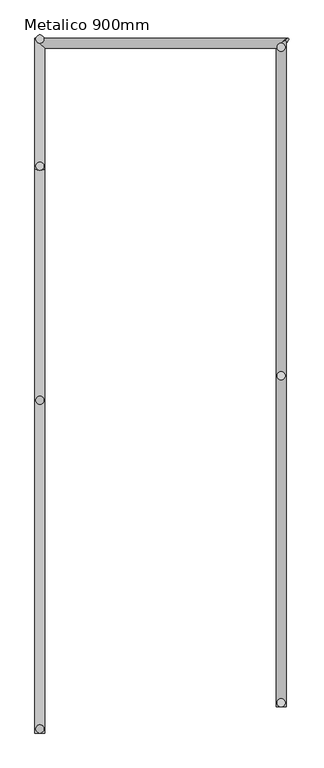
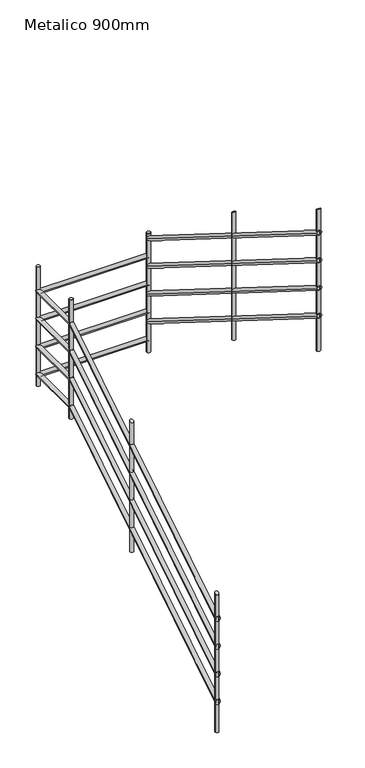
"""IFC4 building model written with IfcOpenShell, lengths in millimetres: railing geometry, Metalico 900mm."""

from ifc_helpers import new_model, si_unit, point, frame, frame_2d, origin, place, context, project, spatial, circle_curve, ellipse_curve, trimmed, segment, composite_curve, outline, extrude, source, transform, mapped, element, save
from ifc_brep_helpers import plane_surface, cylinder_surface, advanced_brep


def metalico_900mm_8390f29c(model_context):
    return source(origin(), model_context, "Body", "SolidModel", [
        advanced_brep(
        [(9989.9958537, 8929.9988127, 829.1198035), (10019.9958537, 8929.9988127, 829.1198035), (9989.9958537, 10659.8455144, 1912.3333333), (10019.9958537, 10659.8455144, 1912.3333333), (10765.669886, 11059.9988127, 1912.3333333), (10740.2435505, 11029.9988127, 1912.3333333), (10019.9958537, 11029.9988127, 1912.3333333), (9989.9958537, 11059.9988127, 1912.3333333)],
        [
            (0, 1, ellipse_curve(frame((10004.9958537, 8929.9988127, 829.1198035), z_axis=(0.0, -1.0, 0.0), x_axis=(0.0, 0.0, -1.0)), 17.6981854, 15.0)),
            (1, 0, ellipse_curve(frame((10004.9958537, 8929.9988127, 829.1198035), z_axis=(0.0, -1.0, 0.0), x_axis=(0.0, 0.0, -1.0)), 17.6981854, 15.0)),
            (0, 2),
            (2, 3, ellipse_curve(frame((10004.9958537, 10659.8455144, 1912.3333333), z_axis=(0.0, -0.9611307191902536, -0.27609371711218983), x_axis=(0.0, 0.2760937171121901, -0.9611307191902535)), 15.606618, 15.0)),
            (3, 1),
            (3, 2, ellipse_curve(frame((10004.9958537, 10659.8455144, 1912.3333333), z_axis=(0.0, -0.9611307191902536, -0.27609371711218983), x_axis=(0.0, 0.2760937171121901, -0.9611307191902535)), 15.606618, 15.0)),
            (4, 5, ellipse_curve(frame((10752.9567183, 11044.9988127, 1912.3333333), z_axis=(0.7071067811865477, -0.5993044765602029, 0.3752787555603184), x_axis=(-0.7071067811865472, -0.5993044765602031, 0.3752787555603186)), 21.2132034, 15.0)),
            (5, 4, ellipse_curve(frame((10752.9567183, 11044.9988127, 1912.3333333), z_axis=(0.7071067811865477, -0.5993044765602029, 0.3752787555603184), x_axis=(-0.7071067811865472, -0.5993044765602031, 0.3752787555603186)), 21.2132034, 15.0)),
            (6, 7, ellipse_curve(frame((10004.9958537, 11044.9988127, 1912.3333333), z_axis=(0.7071067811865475, 0.7071067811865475, 0.0), x_axis=(-0.7071067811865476, 0.7071067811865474, 0.0)), 21.2132034, 15.0)),
            (7, 4),
            (5, 6),
            (7, 6, ellipse_curve(frame((10004.9958537, 11044.9988127, 1912.3333333), z_axis=(0.7071067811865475, 0.7071067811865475, 0.0), x_axis=(-0.7071067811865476, 0.7071067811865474, 0.0)), 21.2132034, 15.0)),
            (2, 7),
            (6, 3),
        ],
        [
            plane_surface(frame((10004.9958537, 8929.9988127, 846.8179888), z_axis=(0.0, -1.0, 0.0), x_axis=(0.0, 0.0, 1.0))),
            cylinder_surface(frame((10004.9958537, 8937.9596773, 834.104821), z_axis=(0.0, -0.8475445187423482, -0.5307243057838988), x_axis=(1.0, 0.0, 0.0)), 15.0),
            plane_surface(frame((10744.9958537, 11044.9988127, 1927.3333333), z_axis=(0.7071067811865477, -0.5993044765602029, 0.3752787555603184), x_axis=(0.7071067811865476, 0.599304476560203, -0.3752787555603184))),
            cylinder_surface(frame((10004.9958537, 11044.9988127, 1912.3333333), z_axis=(-1.0, 0.0, 0.0), x_axis=(0.0, -1.0, 0.0)), 15.0),
            cylinder_surface(frame((10004.9958537, 10655.5366253, 1912.3333333), z_axis=(0.0, -1.0, 0.0), x_axis=(1.0, 0.0, 0.0)), 15.0),
        ],
        [
            (0, [[1, 2]]),
            (1, [[-1, 3, 4, 5]]),
            (1, [[-2, -5, 6, -3]]),
            (2, [[7, 8]]),
            (3, [[9, 10, -8, 11]]),
            (3, [[12, -11, -7, -10]]),
            (4, [[-4, 13, -9, 14]]),
            (4, [[-6, -14, -12, -13]]),
        ],
    ),
        advanced_brep(
        [(10759.9958537, 11049.7511159, 2035.0283486), (10729.9958537, 11024.3247804, 2050.9500778), (10759.9958537, 9009.9988127, 3312.3018146), (10729.9958537, 9009.9988127, 3312.3018146)],
        [
            (0, 1, ellipse_curve(frame((10744.9958537, 11037.0379481, 2042.9892132), z_axis=(-0.7071067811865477, 0.5993044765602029, -0.3752787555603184), x_axis=(0.7071067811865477, 0.5993044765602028, -0.37527875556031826)), 21.2132034, 15.0)),
            (1, 0, ellipse_curve(frame((10744.9958537, 11037.0379481, 2042.9892132), z_axis=(-0.7071067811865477, 0.5993044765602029, -0.3752787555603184), x_axis=(0.7071067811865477, 0.5993044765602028, -0.37527875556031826)), 21.2132034, 15.0)),
            (2, 3, ellipse_curve(frame((10744.9958537, 9009.9988127, 3312.3018146), z_axis=(0.0, -1.0, 0.0), x_axis=(0.0, 0.0, -1.0)), 17.6981854, 15.0)),
            (3, 2, ellipse_curve(frame((10744.9958537, 9009.9988127, 3312.3018146), z_axis=(0.0, -1.0, 0.0), x_axis=(0.0, 0.0, -1.0)), 17.6981854, 15.0)),
            (0, 2),
            (3, 1),
        ],
        [
            plane_surface(frame((10744.9958537, 11044.9988127, 2055.702381), z_axis=(-0.7071067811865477, 0.5993044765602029, -0.3752787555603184), x_axis=(0.7071067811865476, 0.599304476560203, -0.3752787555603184))),
            plane_surface(frame((10744.9958537, 9009.9988127, 3330.0), z_axis=(0.0, -1.0, 0.0), x_axis=(0.0, 0.0, -1.0))),
            cylinder_surface(frame((10744.9958537, 11037.0379481, 2042.9892132), z_axis=(0.0, 0.8475445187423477, -0.5307243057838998), x_axis=(-1.0, 0.0, 0.0)), 15.0),
        ],
        [
            (0, [[1, 2]]),
            (1, [[3, 4]]),
            (2, [[-1, 5, -4, 6]]),
            (2, [[-2, -6, -3, -5]]),
        ],
    ),
        advanced_brep(
        [(9989.9958537, 8929.9988127, 629.1198035), (10019.9958537, 8929.9988127, 629.1198035), (9989.9958537, 10659.8455144, 1712.3333333), (10019.9958537, 10659.8455144, 1712.3333333), (10765.669886, 11059.9988127, 1712.3333333), (10740.2435505, 11029.9988127, 1712.3333333), (10019.9958537, 11029.9988127, 1712.3333333), (9989.9958537, 11059.9988127, 1712.3333333)],
        [
            (0, 1, ellipse_curve(frame((10004.9958537, 8929.9988127, 629.1198035), z_axis=(0.0, -1.0, 0.0), x_axis=(0.0, 0.0, -1.0)), 17.6981854, 15.0)),
            (1, 0, ellipse_curve(frame((10004.9958537, 8929.9988127, 629.1198035), z_axis=(0.0, -1.0, 0.0), x_axis=(0.0, 0.0, -1.0)), 17.6981854, 15.0)),
            (0, 2),
            (2, 3, ellipse_curve(frame((10004.9958537, 10659.8455144, 1712.3333333), z_axis=(0.0, -0.9611307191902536, -0.27609371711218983), x_axis=(0.0, 0.2760937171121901, -0.9611307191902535)), 15.606618, 15.0)),
            (3, 1),
            (3, 2, ellipse_curve(frame((10004.9958537, 10659.8455144, 1712.3333333), z_axis=(0.0, -0.9611307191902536, -0.27609371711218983), x_axis=(0.0, 0.2760937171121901, -0.9611307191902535)), 15.606618, 15.0)),
            (4, 5, ellipse_curve(frame((10752.9567183, 11044.9988127, 1712.3333333), z_axis=(0.7071067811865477, -0.5993044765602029, 0.3752787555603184), x_axis=(-0.7071067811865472, -0.5993044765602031, 0.3752787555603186)), 21.2132034, 15.0)),
            (5, 4, ellipse_curve(frame((10752.9567183, 11044.9988127, 1712.3333333), z_axis=(0.7071067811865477, -0.5993044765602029, 0.3752787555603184), x_axis=(-0.7071067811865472, -0.5993044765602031, 0.3752787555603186)), 21.2132034, 15.0)),
            (6, 7, ellipse_curve(frame((10004.9958537, 11044.9988127, 1712.3333333), z_axis=(0.7071067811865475, 0.7071067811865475, 0.0), x_axis=(-0.7071067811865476, 0.7071067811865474, 0.0)), 21.2132034, 15.0)),
            (7, 4),
            (5, 6),
            (7, 6, ellipse_curve(frame((10004.9958537, 11044.9988127, 1712.3333333), z_axis=(0.7071067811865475, 0.7071067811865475, 0.0), x_axis=(-0.7071067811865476, 0.7071067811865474, 0.0)), 21.2132034, 15.0)),
            (2, 7),
            (6, 3),
        ],
        [
            plane_surface(frame((10004.9958537, 8929.9988127, 646.8179888), z_axis=(0.0, -1.0, 0.0), x_axis=(0.0, 0.0, 1.0))),
            cylinder_surface(frame((10004.9958537, 8937.9596773, 634.104821), z_axis=(0.0, -0.8475445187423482, -0.5307243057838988), x_axis=(1.0, 0.0, 0.0)), 15.0),
            plane_surface(frame((10744.9958537, 11044.9988127, 1727.3333333), z_axis=(0.7071067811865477, -0.5993044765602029, 0.3752787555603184), x_axis=(0.7071067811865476, 0.599304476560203, -0.3752787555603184))),
            cylinder_surface(frame((10004.9958537, 11044.9988127, 1712.3333333), z_axis=(-1.0, 0.0, 0.0), x_axis=(0.0, -1.0, 0.0)), 15.0),
            cylinder_surface(frame((10004.9958537, 10655.5366253, 1712.3333333), z_axis=(0.0, -1.0, 0.0), x_axis=(1.0, 0.0, 0.0)), 15.0),
        ],
        [
            (0, [[1, 2]]),
            (1, [[-1, 3, 4, 5]]),
            (1, [[-2, -5, 6, -3]]),
            (2, [[7, 8]]),
            (3, [[9, 10, -8, 11]]),
            (3, [[12, -11, -7, -10]]),
            (4, [[-4, 13, -9, 14]]),
            (4, [[-6, -14, -12, -13]]),
        ],
    ),
        advanced_brep(
        [(10759.9958537, 11049.7511159, 1835.0283486), (10729.9958537, 11024.3247804, 1850.9500778), (10759.9958537, 9009.9988127, 3112.3018146), (10729.9958537, 9009.9988127, 3112.3018146)],
        [
            (0, 1, ellipse_curve(frame((10744.9958537, 11037.0379481, 1842.9892132), z_axis=(-0.7071067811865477, 0.5993044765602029, -0.3752787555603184), x_axis=(0.7071067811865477, 0.5993044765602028, -0.37527875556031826)), 21.2132034, 15.0)),
            (1, 0, ellipse_curve(frame((10744.9958537, 11037.0379481, 1842.9892132), z_axis=(-0.7071067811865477, 0.5993044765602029, -0.3752787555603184), x_axis=(0.7071067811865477, 0.5993044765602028, -0.37527875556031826)), 21.2132034, 15.0)),
            (2, 3, ellipse_curve(frame((10744.9958537, 9009.9988127, 3112.3018146), z_axis=(0.0, -1.0, 0.0), x_axis=(0.0, 0.0, -1.0)), 17.6981854, 15.0)),
            (3, 2, ellipse_curve(frame((10744.9958537, 9009.9988127, 3112.3018146), z_axis=(0.0, -1.0, 0.0), x_axis=(0.0, 0.0, -1.0)), 17.6981854, 15.0)),
            (0, 2),
            (3, 1),
        ],
        [
            plane_surface(frame((10744.9958537, 11044.9988127, 1855.702381), z_axis=(-0.7071067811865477, 0.5993044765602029, -0.3752787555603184), x_axis=(0.7071067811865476, 0.599304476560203, -0.3752787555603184))),
            plane_surface(frame((10744.9958537, 9009.9988127, 3130.0), z_axis=(0.0, -1.0, 0.0), x_axis=(0.0, 0.0, -1.0))),
            cylinder_surface(frame((10744.9958537, 11037.0379481, 1842.9892132), z_axis=(0.0, 0.8475445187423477, -0.5307243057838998), x_axis=(-1.0, 0.0, 0.0)), 15.0),
        ],
        [
            (0, [[1, 2]]),
            (1, [[3, 4]]),
            (2, [[-1, 5, -4, 6]]),
            (2, [[-2, -6, -3, -5]]),
        ],
    ),
        advanced_brep(
        [(9989.9958537, 8929.9988127, 429.1198035), (10019.9958537, 8929.9988127, 429.1198035), (9989.9958537, 10659.8455144, 1512.3333333), (10019.9958537, 10659.8455144, 1512.3333333), (10765.669886, 11059.9988127, 1512.3333333), (10740.2435505, 11029.9988127, 1512.3333333), (10019.9958537, 11029.9988127, 1512.3333333), (9989.9958537, 11059.9988127, 1512.3333333)],
        [
            (0, 1, ellipse_curve(frame((10004.9958537, 8929.9988127, 429.1198035), z_axis=(0.0, -1.0, 0.0), x_axis=(0.0, 0.0, -1.0)), 17.6981854, 15.0)),
            (1, 0, ellipse_curve(frame((10004.9958537, 8929.9988127, 429.1198035), z_axis=(0.0, -1.0, 0.0), x_axis=(0.0, 0.0, -1.0)), 17.6981854, 15.0)),
            (0, 2),
            (2, 3, ellipse_curve(frame((10004.9958537, 10659.8455144, 1512.3333333), z_axis=(0.0, -0.9611307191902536, -0.27609371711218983), x_axis=(0.0, 0.2760937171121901, -0.9611307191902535)), 15.606618, 15.0)),
            (3, 1),
            (3, 2, ellipse_curve(frame((10004.9958537, 10659.8455144, 1512.3333333), z_axis=(0.0, -0.9611307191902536, -0.27609371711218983), x_axis=(0.0, 0.2760937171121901, -0.9611307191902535)), 15.606618, 15.0)),
            (4, 5, ellipse_curve(frame((10752.9567183, 11044.9988127, 1512.3333333), z_axis=(0.7071067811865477, -0.5993044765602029, 0.3752787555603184), x_axis=(-0.7071067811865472, -0.5993044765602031, 0.3752787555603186)), 21.2132034, 15.0)),
            (5, 4, ellipse_curve(frame((10752.9567183, 11044.9988127, 1512.3333333), z_axis=(0.7071067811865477, -0.5993044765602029, 0.3752787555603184), x_axis=(-0.7071067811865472, -0.5993044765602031, 0.3752787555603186)), 21.2132034, 15.0)),
            (6, 7, ellipse_curve(frame((10004.9958537, 11044.9988127, 1512.3333333), z_axis=(0.7071067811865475, 0.7071067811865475, 0.0), x_axis=(-0.7071067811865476, 0.7071067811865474, 0.0)), 21.2132034, 15.0)),
            (7, 4),
            (5, 6),
            (7, 6, ellipse_curve(frame((10004.9958537, 11044.9988127, 1512.3333333), z_axis=(0.7071067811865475, 0.7071067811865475, 0.0), x_axis=(-0.7071067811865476, 0.7071067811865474, 0.0)), 21.2132034, 15.0)),
            (2, 7),
            (6, 3),
        ],
        [
            plane_surface(frame((10004.9958537, 8929.9988127, 446.8179888), z_axis=(0.0, -1.0, 0.0), x_axis=(0.0, 0.0, 1.0))),
            cylinder_surface(frame((10004.9958537, 8937.9596773, 434.104821), z_axis=(0.0, -0.8475445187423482, -0.5307243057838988), x_axis=(1.0, 0.0, 0.0)), 15.0),
            plane_surface(frame((10744.9958537, 11044.9988127, 1527.3333333), z_axis=(0.7071067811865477, -0.5993044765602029, 0.3752787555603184), x_axis=(0.7071067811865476, 0.599304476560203, -0.3752787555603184))),
            cylinder_surface(frame((10004.9958537, 11044.9988127, 1512.3333333), z_axis=(-1.0, 0.0, 0.0), x_axis=(0.0, -1.0, 0.0)), 15.0),
            cylinder_surface(frame((10004.9958537, 10655.5366253, 1512.3333333), z_axis=(0.0, -1.0, 0.0), x_axis=(1.0, 0.0, 0.0)), 15.0),
        ],
        [
            (0, [[1, 2]]),
            (1, [[-1, 3, 4, 5]]),
            (1, [[-2, -5, 6, -3]]),
            (2, [[7, 8]]),
            (3, [[9, 10, -8, 11]]),
            (3, [[12, -11, -7, -10]]),
            (4, [[-4, 13, -9, 14]]),
            (4, [[-6, -14, -12, -13]]),
        ],
    ),
        advanced_brep(
        [(10759.9958537, 11049.7511159, 1635.0283486), (10729.9958537, 11024.3247804, 1650.9500778), (10759.9958537, 9009.9988127, 2912.3018146), (10729.9958537, 9009.9988127, 2912.3018146)],
        [
            (0, 1, ellipse_curve(frame((10744.9958537, 11037.0379481, 1642.9892132), z_axis=(-0.7071067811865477, 0.5993044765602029, -0.3752787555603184), x_axis=(0.7071067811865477, 0.5993044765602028, -0.37527875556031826)), 21.2132034, 15.0)),
            (1, 0, ellipse_curve(frame((10744.9958537, 11037.0379481, 1642.9892132), z_axis=(-0.7071067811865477, 0.5993044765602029, -0.3752787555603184), x_axis=(0.7071067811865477, 0.5993044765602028, -0.37527875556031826)), 21.2132034, 15.0)),
            (2, 3, ellipse_curve(frame((10744.9958537, 9009.9988127, 2912.3018146), z_axis=(0.0, -1.0, 0.0), x_axis=(0.0, 0.0, -1.0)), 17.6981854, 15.0)),
            (3, 2, ellipse_curve(frame((10744.9958537, 9009.9988127, 2912.3018146), z_axis=(0.0, -1.0, 0.0), x_axis=(0.0, 0.0, -1.0)), 17.6981854, 15.0)),
            (0, 2),
            (3, 1),
        ],
        [
            plane_surface(frame((10744.9958537, 11044.9988127, 1655.702381), z_axis=(-0.7071067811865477, 0.5993044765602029, -0.3752787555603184), x_axis=(0.7071067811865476, 0.599304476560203, -0.3752787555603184))),
            plane_surface(frame((10744.9958537, 9009.9988127, 2930.0), z_axis=(0.0, -1.0, 0.0), x_axis=(0.0, 0.0, -1.0))),
            cylinder_surface(frame((10744.9958537, 11037.0379481, 1642.9892132), z_axis=(0.0, 0.8475445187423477, -0.5307243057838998), x_axis=(-1.0, 0.0, 0.0)), 15.0),
        ],
        [
            (0, [[1, 2]]),
            (1, [[3, 4]]),
            (2, [[-1, 5, -4, 6]]),
            (2, [[-2, -6, -3, -5]]),
        ],
    ),
        advanced_brep(
        [(9989.9958537, 8929.9988127, 229.1198035), (10019.9958537, 8929.9988127, 229.1198035), (9989.9958537, 10659.8455144, 1312.3333333), (10019.9958537, 10659.8455144, 1312.3333333), (10765.669886, 11059.9988127, 1312.3333333), (10740.2435505, 11029.9988127, 1312.3333333), (10019.9958537, 11029.9988127, 1312.3333333), (9989.9958537, 11059.9988127, 1312.3333333)],
        [
            (0, 1, ellipse_curve(frame((10004.9958537, 8929.9988127, 229.1198035), z_axis=(0.0, -1.0, 0.0), x_axis=(0.0, 0.0, -1.0)), 17.6981854, 15.0)),
            (1, 0, ellipse_curve(frame((10004.9958537, 8929.9988127, 229.1198035), z_axis=(0.0, -1.0, 0.0), x_axis=(0.0, 0.0, -1.0)), 17.6981854, 15.0)),
            (0, 2),
            (2, 3, ellipse_curve(frame((10004.9958537, 10659.8455144, 1312.3333333), z_axis=(0.0, -0.9611307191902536, -0.27609371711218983), x_axis=(0.0, 0.2760937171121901, -0.9611307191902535)), 15.606618, 15.0)),
            (3, 1),
            (3, 2, ellipse_curve(frame((10004.9958537, 10659.8455144, 1312.3333333), z_axis=(0.0, -0.9611307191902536, -0.27609371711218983), x_axis=(0.0, 0.2760937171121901, -0.9611307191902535)), 15.606618, 15.0)),
            (4, 5, ellipse_curve(frame((10752.9567183, 11044.9988127, 1312.3333333), z_axis=(0.7071067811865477, -0.5993044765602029, 0.3752787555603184), x_axis=(-0.7071067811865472, -0.5993044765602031, 0.3752787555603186)), 21.2132034, 15.0)),
            (5, 4, ellipse_curve(frame((10752.9567183, 11044.9988127, 1312.3333333), z_axis=(0.7071067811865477, -0.5993044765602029, 0.3752787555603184), x_axis=(-0.7071067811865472, -0.5993044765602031, 0.3752787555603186)), 21.2132034, 15.0)),
            (6, 7, ellipse_curve(frame((10004.9958537, 11044.9988127, 1312.3333333), z_axis=(0.7071067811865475, 0.7071067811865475, 0.0), x_axis=(-0.7071067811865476, 0.7071067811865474, 0.0)), 21.2132034, 15.0)),
            (7, 4),
            (5, 6),
            (7, 6, ellipse_curve(frame((10004.9958537, 11044.9988127, 1312.3333333), z_axis=(0.7071067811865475, 0.7071067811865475, 0.0), x_axis=(-0.7071067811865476, 0.7071067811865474, 0.0)), 21.2132034, 15.0)),
            (2, 7),
            (6, 3),
        ],
        [
            plane_surface(frame((10004.9958537, 8929.9988127, 246.8179888), z_axis=(0.0, -1.0, 0.0), x_axis=(0.0, 0.0, 1.0))),
            cylinder_surface(frame((10004.9958537, 8937.9596773, 234.104821), z_axis=(0.0, -0.8475445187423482, -0.5307243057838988), x_axis=(1.0, 0.0, 0.0)), 15.0),
            plane_surface(frame((10744.9958537, 11044.9988127, 1327.3333333), z_axis=(0.7071067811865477, -0.5993044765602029, 0.3752787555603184), x_axis=(0.7071067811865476, 0.599304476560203, -0.3752787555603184))),
            cylinder_surface(frame((10004.9958537, 11044.9988127, 1312.3333333), z_axis=(-1.0, 0.0, 0.0), x_axis=(0.0, -1.0, 0.0)), 15.0),
            cylinder_surface(frame((10004.9958537, 10655.5366253, 1312.3333333), z_axis=(0.0, -1.0, 0.0), x_axis=(1.0, 0.0, 0.0)), 15.0),
        ],
        [
            (0, [[1, 2]]),
            (1, [[-1, 3, 4, 5]]),
            (1, [[-2, -5, 6, -3]]),
            (2, [[7, 8]]),
            (3, [[9, 10, -8, 11]]),
            (3, [[12, -11, -7, -10]]),
            (4, [[-4, 13, -9, 14]]),
            (4, [[-6, -14, -12, -13]]),
        ],
    ),
        advanced_brep(
        [(10759.9958537, 11049.7511159, 1435.0283486), (10729.9958537, 11024.3247804, 1450.9500778), (10759.9958537, 9009.9988127, 2712.3018146), (10729.9958537, 9009.9988127, 2712.3018146)],
        [
            (0, 1, ellipse_curve(frame((10744.9958537, 11037.0379481, 1442.9892132), z_axis=(-0.7071067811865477, 0.5993044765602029, -0.3752787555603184), x_axis=(0.7071067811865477, 0.5993044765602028, -0.37527875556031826)), 21.2132034, 15.0)),
            (1, 0, ellipse_curve(frame((10744.9958537, 11037.0379481, 1442.9892132), z_axis=(-0.7071067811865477, 0.5993044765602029, -0.3752787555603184), x_axis=(0.7071067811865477, 0.5993044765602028, -0.37527875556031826)), 21.2132034, 15.0)),
            (2, 3, ellipse_curve(frame((10744.9958537, 9009.9988127, 2712.3018146), z_axis=(0.0, -1.0, 0.0), x_axis=(0.0, 0.0, -1.0)), 17.6981854, 15.0)),
            (3, 2, ellipse_curve(frame((10744.9958537, 9009.9988127, 2712.3018146), z_axis=(0.0, -1.0, 0.0), x_axis=(0.0, 0.0, -1.0)), 17.6981854, 15.0)),
            (0, 2),
            (3, 1),
        ],
        [
            plane_surface(frame((10744.9958537, 11044.9988127, 1455.702381), z_axis=(-0.7071067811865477, 0.5993044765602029, -0.3752787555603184), x_axis=(0.7071067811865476, 0.599304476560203, -0.3752787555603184))),
            plane_surface(frame((10744.9958537, 9009.9988127, 2730.0), z_axis=(0.0, -1.0, 0.0), x_axis=(0.0, 0.0, -1.0))),
            cylinder_surface(frame((10744.9958537, 11037.0379481, 1442.9892132), z_axis=(0.0, 0.8475445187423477, -0.5307243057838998), x_axis=(-1.0, 0.0, 0.0)), 15.0),
        ],
        [
            (0, [[1, 2]]),
            (1, [[3, 4]]),
            (2, [[-1, 5, -4, 6]]),
            (2, [[-2, -6, -3, -5]]),
        ],
    ),
        advanced_brep(
        [(10732.4958537, 10024.9988127, 2847.2215057), (10732.4958537, 10024.9988127, 1928.6666667), (10757.4958537, 10024.9988127, 1928.6666667), (10757.4958537, 10024.9988127, 2847.2215057)],
        [
            (0, 1),
            (1, 2, circle_curve(frame((10744.9958537, 10024.9988127, 1928.6666667), z_axis=(0.0, 0.0, 1.0), x_axis=(1.0, 0.0, 0.0)), 12.5)),
            (2, 3),
            (3, 0, ellipse_curve(frame((10744.9958537, 10024.9988127, 2847.2215057), z_axis=(0.0, -0.5307243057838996, -0.8475445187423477), x_axis=(0.0, -0.8475445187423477, 0.5307243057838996)), 14.7484878, 12.5)),
            (0, 3, ellipse_curve(frame((10744.9958537, 10024.9988127, 2847.2215057), z_axis=(0.0, -0.5307243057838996, -0.8475445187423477), x_axis=(0.0, -0.8475445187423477, 0.5307243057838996)), 14.7484878, 12.5)),
            (2, 1, circle_curve(frame((10744.9958537, 10024.9988127, 1928.6666667), z_axis=(0.0, 0.0, 1.0), x_axis=(1.0, 0.0, 0.0)), 12.5)),
        ],
        [
            cylinder_surface(frame((10744.9958537, 10024.9988127, 1828.6666667), z_axis=(0.0, 0.0, 1.0), x_axis=(1.0, 0.0, 0.0)), 12.5),
            plane_surface(frame((10769.9958537, 9999.9988127, 2862.8762676), z_axis=(0.0, 0.5307243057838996, 0.8475445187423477), x_axis=(-1.0, 0.0, 0.0))),
            plane_surface(frame((10769.9958537, 10049.9988127, 1928.6666667), z_axis=(0.0, 0.0, -1.0), x_axis=(-1.0, 0.0, 0.0))),
        ],
        [
            (0, [[1, 2, 3, 4]]),
            (0, [[-1, 5, -3, 6]]),
            (1, [[-4, -5]]),
            (2, [[-2, -6]]),
        ],
    ),
        advanced_brep(
        [(10732.4958537, 10024.9988127, 2847.2215057), (10732.4958537, 10024.9988127, 1928.6666667), (10757.4958537, 10024.9988127, 1928.6666667), (10757.4958537, 10024.9988127, 2847.2215057)],
        [
            (0, 1),
            (1, 2, circle_curve(frame((10744.9958537, 10024.9988127, 1928.6666667), z_axis=(0.0, 0.0, 1.0), x_axis=(1.0, 0.0, 0.0)), 12.5)),
            (2, 3),
            (3, 0, ellipse_curve(frame((10744.9958537, 10024.9988127, 2847.2215057), z_axis=(0.0, -0.5307243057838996, -0.8475445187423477), x_axis=(0.0, -0.8475445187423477, 0.5307243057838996)), 14.7484878, 12.5)),
            (0, 3, ellipse_curve(frame((10744.9958537, 10024.9988127, 2847.2215057), z_axis=(0.0, -0.5307243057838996, -0.8475445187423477), x_axis=(0.0, -0.8475445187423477, 0.5307243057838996)), 14.7484878, 12.5)),
            (2, 1, circle_curve(frame((10744.9958537, 10024.9988127, 1928.6666667), z_axis=(0.0, 0.0, 1.0), x_axis=(1.0, 0.0, 0.0)), 12.5)),
        ],
        [
            cylinder_surface(frame((10744.9958537, 10024.9988127, 1828.6666667), z_axis=(0.0, 0.0, 1.0), x_axis=(1.0, 0.0, 0.0)), 12.5),
            plane_surface(frame((10769.9958537, 9999.9988127, 2862.8762676), z_axis=(0.0, 0.5307243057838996, 0.8475445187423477), x_axis=(-1.0, 0.0, 0.0))),
            plane_surface(frame((10769.9958537, 10049.9988127, 1928.6666667), z_axis=(0.0, 0.0, -1.0), x_axis=(-1.0, 0.0, 0.0))),
        ],
        [
            (0, [[1, 2, 3, 4]]),
            (0, [[-1, 5, -3, 6]]),
            (1, [[-4, -5]]),
            (2, [[-2, -6]]),
        ],
    ),
        advanced_brep(
        [(10017.4958537, 9949.9988127, 1638.3371136), (10017.4958537, 9949.9988127, 701.3333333), (9992.4958537, 9949.9988127, 701.3333333), (9992.4958537, 9949.9988127, 1638.3371136)],
        [
            (0, 1),
            (1, 2, circle_curve(frame((10004.9958537, 9949.9988127, 701.3333333), z_axis=(0.0, 0.0, 1.0), x_axis=(-1.0, 0.0, 0.0)), 12.5)),
            (2, 3),
            (3, 0, ellipse_curve(frame((10004.9958537, 9949.9988127, 1638.3371136), z_axis=(0.0, 0.530724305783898, -0.8475445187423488), x_axis=(0.0, 0.8475445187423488, 0.5307243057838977)), 14.7484878, 12.5)),
            (0, 3, ellipse_curve(frame((10004.9958537, 9949.9988127, 1638.3371136), z_axis=(0.0, 0.530724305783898, -0.8475445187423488), x_axis=(0.0, 0.8475445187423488, 0.5307243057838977)), 14.7484878, 12.5)),
            (2, 1, circle_curve(frame((10004.9958537, 9949.9988127, 701.3333333), z_axis=(0.0, 0.0, 1.0), x_axis=(-1.0, 0.0, 0.0)), 12.5)),
        ],
        [
            cylinder_surface(frame((10004.9958537, 9949.9988127, 601.3333333), z_axis=(0.0, 0.0, 1.0), x_axis=(-1.0, 0.0, 0.0)), 12.5),
            plane_surface(frame((9979.9958537, 9974.9988127, 1653.9918755), z_axis=(0.0, -0.530724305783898, 0.8475445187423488), x_axis=(1.0, 0.0, 0.0))),
            plane_surface(frame((9979.9958537, 9924.9988127, 701.3333333), z_axis=(0.0, 0.0, -1.0), x_axis=(1.0, 0.0, 0.0))),
        ],
        [
            (0, [[1, 2, 3, 4]]),
            (0, [[-1, 5, -3, 6]]),
            (1, [[-4, -5]]),
            (2, [[-2, -6]]),
        ],
    ),
        advanced_brep(
        [(10017.4958537, 9949.9988127, 1638.3371136), (10017.4958537, 9949.9988127, 701.3333333), (9992.4958537, 9949.9988127, 701.3333333), (9992.4958537, 9949.9988127, 1638.3371136)],
        [
            (0, 1),
            (1, 2, circle_curve(frame((10004.9958537, 9949.9988127, 701.3333333), z_axis=(0.0, 0.0, 1.0), x_axis=(-1.0, 0.0, 0.0)), 12.5)),
            (2, 3),
            (3, 0, ellipse_curve(frame((10004.9958537, 9949.9988127, 1638.3371136), z_axis=(0.0, 0.530724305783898, -0.8475445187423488), x_axis=(0.0, 0.8475445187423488, 0.5307243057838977)), 14.7484878, 12.5)),
            (0, 3, ellipse_curve(frame((10004.9958537, 9949.9988127, 1638.3371136), z_axis=(0.0, 0.530724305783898, -0.8475445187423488), x_axis=(0.0, 0.8475445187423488, 0.5307243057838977)), 14.7484878, 12.5)),
            (2, 1, circle_curve(frame((10004.9958537, 9949.9988127, 701.3333333), z_axis=(0.0, 0.0, 1.0), x_axis=(-1.0, 0.0, 0.0)), 12.5)),
        ],
        [
            cylinder_surface(frame((10004.9958537, 9949.9988127, 601.3333333), z_axis=(0.0, 0.0, 1.0), x_axis=(-1.0, 0.0, 0.0)), 12.5),
            plane_surface(frame((9979.9958537, 9974.9988127, 1653.9918755), z_axis=(0.0, -0.530724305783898, 0.8475445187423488), x_axis=(1.0, 0.0, 0.0))),
            plane_surface(frame((9979.9958537, 9924.9988127, 701.3333333), z_axis=(0.0, 0.0, -1.0), x_axis=(1.0, 0.0, 0.0))),
        ],
        [
            (0, [[1, 2, 3, 4]]),
            (0, [[-1, 5, -3, 6]]),
            (1, [[-4, -5]]),
            (2, [[-2, -6]]),
        ],
    ),
        extrude(outline(composite_curve([segment(trimmed(circle_curve(frame_2d((10744.9958537, 11032.4988127)), 12.5), [point((10757.4958537, 11032.4988127))], [point((10732.4958537, 11032.4988127))], False, "CARTESIAN"), True, "CONTINUOUS"), segment(trimmed(circle_curve(frame_2d((10744.9958537, 11032.4988127)), 12.5), [point((10732.4958537, 11032.4988127))], [point((10757.4958537, 11032.4988127))], False, "CARTESIAN"), True, "CONTINUOUS")], self_intersect=False)), frame((0.0, 0.0, 1227.3333333), z_axis=(0.0, 0.0, 1.0), x_axis=(1.0, 0.0, 0.0)), (0.0, 0.0, 1.0), 860.0),
        extrude(outline(composite_curve([segment(trimmed(circle_curve(frame_2d((10004.9958537, 11057.4988127)), 12.5), [point((9992.4958537, 11057.4988127))], [point((10017.4958537, 11057.4988127))], False, "CARTESIAN"), True, "CONTINUOUS"), segment(trimmed(circle_curve(frame_2d((10004.9958537, 11057.4988127)), 12.5), [point((10017.4958537, 11057.4988127))], [point((9992.4958537, 11057.4988127))], False, "CARTESIAN"), True, "CONTINUOUS")], self_intersect=False)), frame((0.0, 0.0, 1227.3333333), z_axis=(0.0, 0.0, 1.0), x_axis=(1.0, 0.0, 0.0)), (0.0, 0.0, 1.0), 860.0),
        extrude(outline(composite_curve([segment(trimmed(circle_curve(frame_2d((10004.9958537, 10668.0366253)), 12.5), [point((9992.4958537, 10668.0366253))], [point((10017.4958537, 10668.0366253))], False, "CARTESIAN"), True, "CONTINUOUS"), segment(trimmed(circle_curve(frame_2d((10004.9958537, 10668.0366253)), 12.5), [point((10017.4958537, 10668.0366253))], [point((9992.4958537, 10668.0366253))], False, "CARTESIAN"), True, "CONTINUOUS")], self_intersect=False)), frame((0.0, 0.0, 1227.3333333), z_axis=(0.0, 0.0, 1.0), x_axis=(1.0, 0.0, 0.0)), (0.0, 0.0, 1.0), 860.0),
        advanced_brep(
        [(10732.4958537, 9022.4988127, 3474.9774581), (10732.4958537, 9022.4988127, 2454.6666667), (10757.4958537, 9022.4988127, 2454.6666667), (10757.4958537, 9022.4988127, 3474.9774581)],
        [
            (0, 1),
            (1, 2, circle_curve(frame((10744.9958537, 9022.4988127, 2454.6666667), z_axis=(0.0, 0.0, 1.0), x_axis=(1.0, 0.0, 0.0)), 12.5)),
            (2, 3),
            (3, 0, ellipse_curve(frame((10744.9958537, 9022.4988127, 3474.9774581), z_axis=(0.0, -0.530724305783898, -0.8475445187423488), x_axis=(0.0, -0.8475445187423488, 0.5307243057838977)), 14.7484878, 12.5)),
            (0, 3, ellipse_curve(frame((10744.9958537, 9022.4988127, 3474.9774581), z_axis=(0.0, -0.530724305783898, -0.8475445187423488), x_axis=(0.0, -0.8475445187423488, 0.5307243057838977)), 14.7484878, 12.5)),
            (2, 1, circle_curve(frame((10744.9958537, 9022.4988127, 2454.6666667), z_axis=(0.0, 0.0, 1.0), x_axis=(1.0, 0.0, 0.0)), 12.5)),
        ],
        [
            cylinder_surface(frame((10744.9958537, 9022.4988127, 2354.6666667), z_axis=(0.0, 0.0, 1.0), x_axis=(1.0, 0.0, 0.0)), 12.5),
            plane_surface(frame((10769.9958537, 8997.4988127, 3490.63222), z_axis=(0.0, 0.530724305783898, 0.8475445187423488), x_axis=(-1.0, 0.0, 0.0))),
            plane_surface(frame((10769.9958537, 9047.4988127, 2454.6666667), z_axis=(0.0, 0.0, -1.0), x_axis=(-1.0, 0.0, 0.0))),
        ],
        [
            (0, [[1, 2, 3, 4]]),
            (0, [[-1, 5, -3, 6]]),
            (1, [[-4, -5]]),
            (2, [[-2, -6]]),
        ],
    ),
        advanced_brep(
        [(10017.4958537, 8942.4988127, 1007.4502088), (10017.4958537, 8942.4988127, 9.6453698), (9992.4958537, 8942.4988127, 9.6453698), (9992.4958537, 8942.4988127, 1007.4502088)],
        [
            (0, 1),
            (1, 2, circle_curve(frame((10004.9958537, 8942.4988127, 9.6453698), z_axis=(0.0, 0.0, 1.0), x_axis=(-1.0, 0.0, 0.0)), 12.5)),
            (2, 3),
            (3, 0, ellipse_curve(frame((10004.9958537, 8942.4988127, 1007.4502088), z_axis=(0.0, 0.530724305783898, -0.8475445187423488), x_axis=(0.0, 0.8475445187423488, 0.5307243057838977)), 14.7484878, 12.5)),
            (0, 3, ellipse_curve(frame((10004.9958537, 8942.4988127, 1007.4502088), z_axis=(0.0, 0.530724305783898, -0.8475445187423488), x_axis=(0.0, 0.8475445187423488, 0.5307243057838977)), 14.7484878, 12.5)),
            (2, 1, circle_curve(frame((10004.9958537, 8942.4988127, 9.6453698), z_axis=(0.0, 0.0, 1.0), x_axis=(-1.0, 0.0, 0.0)), 12.5)),
        ],
        [
            cylinder_surface(frame((10004.9958537, 8942.4988127, -90.3546302), z_axis=(0.0, 0.0, 1.0), x_axis=(-1.0, 0.0, 0.0)), 12.5),
            plane_surface(frame((9979.9958537, 8967.4988127, 1023.1049707), z_axis=(0.0, -0.530724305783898, 0.8475445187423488), x_axis=(1.0, 0.0, 0.0))),
            plane_surface(frame((9979.9958537, 8917.4988127, 9.6453698), z_axis=(0.0, 0.0, -1.0), x_axis=(1.0, 0.0, 0.0))),
        ],
        [
            (0, [[1, 2, 3, 4]]),
            (0, [[-1, 5, -3, 6]]),
            (1, [[-4, -5]]),
            (2, [[-2, -6]]),
        ],
    ),
    ])


if __name__ == "__main__":
    model = new_model("IFC4")
    model_context = context("Model", 3, world=origin())
    ifc_project = project(units=[si_unit("LENGTHUNIT", "METRE", prefix="MILLI")], contexts=[model_context])
    site = spatial("IfcSite", under=ifc_project)
    building = spatial("IfcBuilding", under=site)
    placement = place(None, origin())
    metalico_900mm_shape = metalico_900mm_8390f29c(model_context)
    element("IfcRailing", 1, ObjectType="Metalico 900mm", at=placement, inside=building, context=model_context, shape_type="MappedRepresentation", body=[
        mapped(metalico_900mm_shape, transform((0.0, 0.0, 0.0), x_axis=(1.0, 0.0, 0.0), y_axis=(0.0, 1.0, 0.0), z_axis=(0.0, 0.0, 1.0))),
    ])
    save(model, "model.ifc")
